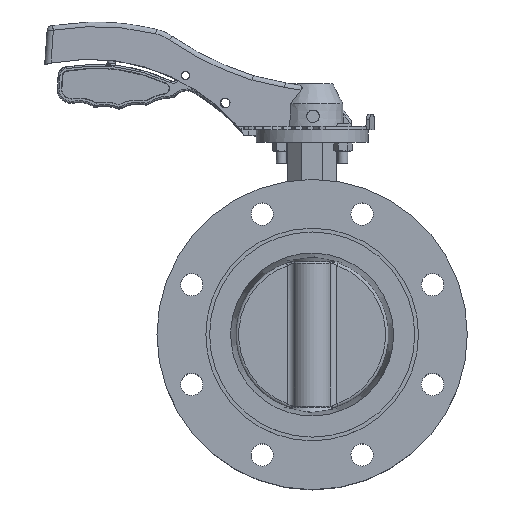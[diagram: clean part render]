
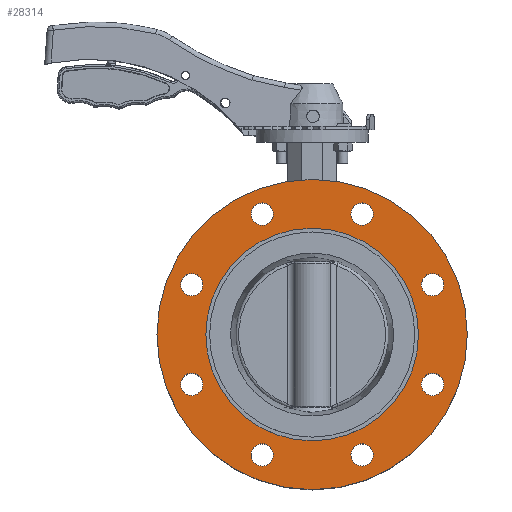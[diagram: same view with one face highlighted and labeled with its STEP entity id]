
A CAD part, top view. The second image highlights one B-rep face of the part: STEP entity #28314.
In plain terms, the highlighted planar face has unit normal (0, 0, 1).
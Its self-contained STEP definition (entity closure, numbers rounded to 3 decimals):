
#196 = ORIENTED_EDGE ( 'NONE', *, *, #57603, .T. ) ;
#460 = VERTEX_POINT ( 'NONE', #11261 ) ;
#2128 = EDGE_LOOP ( 'NONE', ( #44332 ) ) ;
#2141 = DIRECTION ( 'NONE',  ( 0., 0., -1. ) ) ;
#2156 = EDGE_CURVE ( 'NONE', #39817, #39817, #58706, .T. ) ;
#3787 = DIRECTION ( 'NONE',  ( -1., 0., 0. ) ) ;
#4394 = DIRECTION ( 'NONE',  ( 0., 0., 1. ) ) ;
#4993 = CARTESIAN_POINT ( 'NONE',  ( 0., 0., 67. ) ) ;
#5132 = EDGE_CURVE ( 'NONE', #24937, #24937, #34088, .T. ) ;
#5249 = DIRECTION ( 'NONE',  ( -1., 0., 0. ) ) ;
#5339 = DIRECTION ( 'NONE',  ( 0., 0., -1. ) ) ;
#6151 = CARTESIAN_POINT ( 'NONE',  ( 31.182, -97.007, 67. ) ) ;
#6187 = CARTESIAN_POINT ( 'NONE',  ( -85.65, 0., 67. ) ) ;
#6511 = FACE_BOUND ( 'NONE', #13814, .T. ) ;
#6805 = CARTESIAN_POINT ( 'NONE',  ( -49.182, -97.007, 67. ) ) ;
#7020 = EDGE_CURVE ( 'NONE', #460, #460, #10968, .T. ) ;
#7472 = FACE_BOUND ( 'NONE', #2128, .T. ) ;
#7780 = CARTESIAN_POINT ( 'NONE',  ( 40.182, 97.007, 67. ) ) ;
#7818 = ORIENTED_EDGE ( 'NONE', *, *, #7020, .T. ) ;
#7963 = CARTESIAN_POINT ( 'NONE',  ( 97.007, -40.182, 67. ) ) ;
#8391 = DIRECTION ( 'NONE',  ( 0., 0., -1. ) ) ;
#8681 = VERTEX_POINT ( 'NONE', #42621 ) ;
#8688 = CARTESIAN_POINT ( 'NONE',  ( -40.182, 97.007, 67. ) ) ;
#9396 = AXIS2_PLACEMENT_3D ( 'NONE', #39011, #5339, #14613 ) ;
#10904 = EDGE_LOOP ( 'NONE', ( #29945 ) ) ;
#10968 = CIRCLE ( 'NONE', #54470, 9. ) ;
#11261 = CARTESIAN_POINT ( 'NONE',  ( 31.182, 97.007, 67. ) ) ;
#12484 = CARTESIAN_POINT ( 'NONE',  ( 0., 0., 67. ) ) ;
#12831 = CARTESIAN_POINT ( 'NONE',  ( 88.007, 40.182, 67. ) ) ;
#13139 = AXIS2_PLACEMENT_3D ( 'NONE', #21800, #31643, #26868 ) ;
#13814 = EDGE_LOOP ( 'NONE', ( #50420 ) ) ;
#14613 = DIRECTION ( 'NONE',  ( -1., 0., 0. ) ) ;
#15224 = AXIS2_PLACEMENT_3D ( 'NONE', #6187, #25598, #50250 ) ;
#16017 = CARTESIAN_POINT ( 'NONE',  ( -106.007, 40.182, 67. ) ) ;
#17588 = VERTEX_POINT ( 'NONE', #12831 ) ;
#17620 = DIRECTION ( 'NONE',  ( -1., 0., 0. ) ) ;
#17907 = VERTEX_POINT ( 'NONE', #42014 ) ;
#18580 = EDGE_LOOP ( 'NONE', ( #7818 ) ) ;
#18722 = DIRECTION ( 'NONE',  ( 0., 0., -1. ) ) ;
#19168 = CARTESIAN_POINT ( 'NONE',  ( -49.182, 97.007, 67. ) ) ;
#19527 = ORIENTED_EDGE ( 'NONE', *, *, #47425, .T. ) ;
#21137 = FACE_BOUND ( 'NONE', #10904, .T. ) ;
#21344 = EDGE_LOOP ( 'NONE', ( #55874 ) ) ;
#21800 = CARTESIAN_POINT ( 'NONE',  ( 40.182, -97.007, 67. ) ) ;
#22114 = FACE_BOUND ( 'NONE', #25327, .T. ) ;
#22381 = CIRCLE ( 'NONE', #59819, 125. ) ;
#22582 = DIRECTION ( 'NONE',  ( 0., 0., -1. ) ) ;
#22697 = CIRCLE ( 'NONE', #61142, 9. ) ;
#22817 = AXIS2_PLACEMENT_3D ( 'NONE', #8688, #24248, #47635 ) ;
#23111 = DIRECTION ( 'NONE',  ( -1., 0., 0. ) ) ;
#23813 = DIRECTION ( 'NONE',  ( 1., 0., 0. ) ) ;
#23915 = EDGE_LOOP ( 'NONE', ( #50287 ) ) ;
#24248 = DIRECTION ( 'NONE',  ( 0., 0., -1. ) ) ;
#24657 = CARTESIAN_POINT ( 'NONE',  ( -97.007, 40.182, 67. ) ) ;
#24937 = VERTEX_POINT ( 'NONE', #16017 ) ;
#25327 = EDGE_LOOP ( 'NONE', ( #49543 ) ) ;
#25598 = DIRECTION ( 'NONE',  ( 0., 0., -1. ) ) ;
#25678 = DIRECTION ( 'NONE',  ( 1., 0., 0. ) ) ;
#25729 = AXIS2_PLACEMENT_3D ( 'NONE', #51978, #22582, #46900 ) ;
#26243 = FACE_OUTER_BOUND ( 'NONE', #26843, .T. ) ;
#26843 = EDGE_LOOP ( 'NONE', ( #45727 ) ) ;
#26868 = DIRECTION ( 'NONE',  ( -1., 0., 0. ) ) ;
#27902 = EDGE_CURVE ( 'NONE', #61033, #61033, #56635, .T. ) ;
#28314 = ADVANCED_FACE ( 'NONE', ( #6511, #26243, #22114, #50568, #55678, #35442, #21137, #7472, #60767, #40466 ), #49625, .F. ) ;
#28628 = EDGE_CURVE ( 'NONE', #51173, #51173, #22381, .T. ) ;
#28905 = EDGE_CURVE ( 'NONE', #17588, #17588, #46601, .T. ) ;
#29317 = AXIS2_PLACEMENT_3D ( 'NONE', #4993, #48451, #25678 ) ;
#29945 = ORIENTED_EDGE ( 'NONE', *, *, #47348, .T. ) ;
#30283 = EDGE_CURVE ( 'NONE', #36969, #36969, #36794, .T. ) ;
#31643 = DIRECTION ( 'NONE',  ( 0., 0., -1. ) ) ;
#32125 = DIRECTION ( 'NONE',  ( 0., 0., -1. ) ) ;
#34088 = CIRCLE ( 'NONE', #35100, 9. ) ;
#35100 = AXIS2_PLACEMENT_3D ( 'NONE', #24657, #18722, #5249 ) ;
#35442 = FACE_BOUND ( 'NONE', #21344, .T. ) ;
#35831 = CIRCLE ( 'NONE', #25729, 9. ) ;
#36794 = CIRCLE ( 'NONE', #9396, 9. ) ;
#36969 = VERTEX_POINT ( 'NONE', #6805 ) ;
#39011 = CARTESIAN_POINT ( 'NONE',  ( -40.182, -97.007, 67. ) ) ;
#39817 = VERTEX_POINT ( 'NONE', #6151 ) ;
#40466 = FACE_BOUND ( 'NONE', #18580, .T. ) ;
#42014 = CARTESIAN_POINT ( 'NONE',  ( 88.007, -40.182, 67. ) ) ;
#42621 = CARTESIAN_POINT ( 'NONE',  ( -106.007, -40.182, 67. ) ) ;
#44332 = ORIENTED_EDGE ( 'NONE', *, *, #5132, .T. ) ;
#45577 = CARTESIAN_POINT ( 'NONE',  ( 97.007, 40.182, 67. ) ) ;
#45727 = ORIENTED_EDGE ( 'NONE', *, *, #28628, .T. ) ;
#46601 = CIRCLE ( 'NONE', #58824, 9. ) ;
#46900 = DIRECTION ( 'NONE',  ( -1., 0., 0. ) ) ;
#46996 = VERTEX_POINT ( 'NONE', #19168 ) ;
#47348 = EDGE_CURVE ( 'NONE', #8681, #8681, #35831, .T. ) ;
#47425 = EDGE_CURVE ( 'NONE', #17907, #17907, #22697, .T. ) ;
#47635 = DIRECTION ( 'NONE',  ( -1., 0., 0. ) ) ;
#48451 = DIRECTION ( 'NONE',  ( 0., 0., 1. ) ) ;
#49543 = ORIENTED_EDGE ( 'NONE', *, *, #28905, .T. ) ;
#49625 = PLANE ( 'NONE',  #15224 ) ;
#50250 = DIRECTION ( 'NONE',  ( 1., 0., 0. ) ) ;
#50287 = ORIENTED_EDGE ( 'NONE', *, *, #2156, .T. ) ;
#50420 = ORIENTED_EDGE ( 'NONE', *, *, #27902, .F. ) ;
#50568 = FACE_BOUND ( 'NONE', #59037, .T. ) ;
#51173 = VERTEX_POINT ( 'NONE', #51481 ) ;
#51481 = CARTESIAN_POINT ( 'NONE',  ( 125., 0., 67. ) ) ;
#51978 = CARTESIAN_POINT ( 'NONE',  ( -97.007, -40.182, 67. ) ) ;
#54470 = AXIS2_PLACEMENT_3D ( 'NONE', #7780, #8391, #17620 ) ;
#55640 = CARTESIAN_POINT ( 'NONE',  ( 85.65, 0., 67. ) ) ;
#55678 = FACE_BOUND ( 'NONE', #23915, .T. ) ;
#55874 = ORIENTED_EDGE ( 'NONE', *, *, #30283, .T. ) ;
#56635 = CIRCLE ( 'NONE', #29317, 85.65 ) ;
#56742 = EDGE_LOOP ( 'NONE', ( #196 ) ) ;
#57229 = CIRCLE ( 'NONE', #22817, 9. ) ;
#57603 = EDGE_CURVE ( 'NONE', #46996, #46996, #57229, .T. ) ;
#58706 = CIRCLE ( 'NONE', #13139, 9. ) ;
#58824 = AXIS2_PLACEMENT_3D ( 'NONE', #45577, #2141, #23111 ) ;
#59037 = EDGE_LOOP ( 'NONE', ( #19527 ) ) ;
#59819 = AXIS2_PLACEMENT_3D ( 'NONE', #12484, #4394, #23813 ) ;
#60767 = FACE_BOUND ( 'NONE', #56742, .T. ) ;
#61033 = VERTEX_POINT ( 'NONE', #55640 ) ;
#61142 = AXIS2_PLACEMENT_3D ( 'NONE', #7963, #32125, #3787 ) ;
